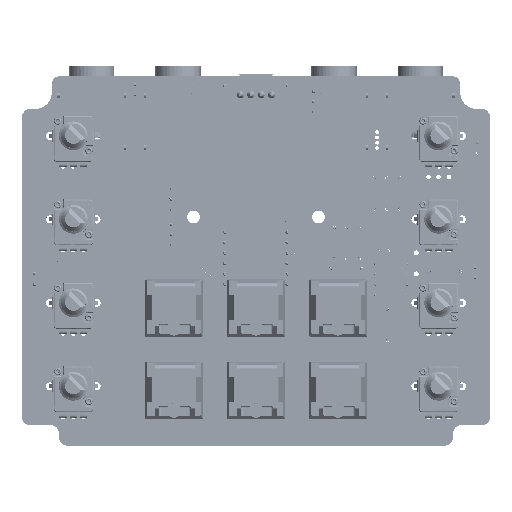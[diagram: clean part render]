
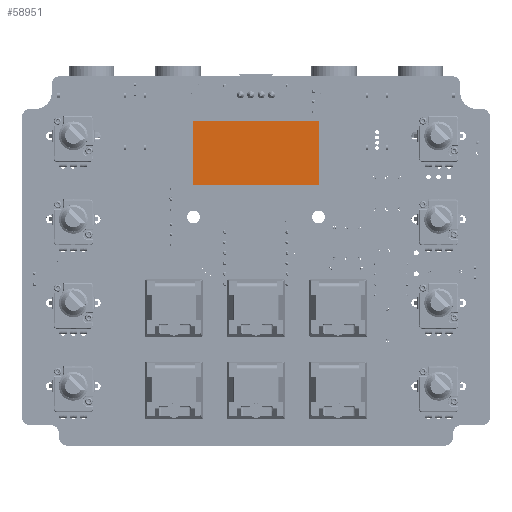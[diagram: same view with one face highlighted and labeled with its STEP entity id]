
A CAD part, top view. The second image highlights one B-rep face of the part: STEP entity #58951.
In plain terms, the highlighted planar face has unit normal (0, 0, 1) as drawn and (0, 1, 0) by its records, which use the part's own axes.
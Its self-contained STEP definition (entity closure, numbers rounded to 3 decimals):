
#58651 = PLANE('',#58652);
#58652 = AXIS2_PLACEMENT_3D('',#58653,#58654,#58655);
#58653 = CARTESIAN_POINT('',(-15.25,2.89,-8.6));
#58654 = DIRECTION('',(-1.,0.,0.));
#58655 = DIRECTION('',(0.,0.,1.));
#58679 = PLANE('',#58680);
#58680 = AXIS2_PLACEMENT_3D('',#58681,#58682,#58683);
#58681 = CARTESIAN_POINT('',(-15.25,2.89,-8.6));
#58682 = DIRECTION('',(0.,0.,-1.));
#58683 = DIRECTION('',(-1.,0.,-0.));
#58707 = PLANE('',#58708);
#58708 = AXIS2_PLACEMENT_3D('',#58709,#58710,#58711);
#58709 = CARTESIAN_POINT('',(15.25,2.89,-8.6));
#58710 = DIRECTION('',(1.,0.,0.));
#58711 = DIRECTION('',(0.,0.,-1.));
#58733 = PLANE('',#58734);
#58734 = AXIS2_PLACEMENT_3D('',#58735,#58736,#58737);
#58735 = CARTESIAN_POINT('',(-15.25,2.89,6.9));
#58736 = DIRECTION('',(-0.,0.,1.));
#58737 = DIRECTION('',(1.,0.,0.));
#58755 = VERTEX_POINT('',#58756);
#58756 = CARTESIAN_POINT('',(-15.25,2.89,-8.6));
#58777 = EDGE_CURVE('',#58755,#58778,#58780,.T.);
#58778 = VERTEX_POINT('',#58779);
#58779 = CARTESIAN_POINT('',(-15.25,2.89,6.9));
#58780 = SURFACE_CURVE('',#58781,(#58785,#58792),.PCURVE_S1.);
#58781 = LINE('',#58782,#58783);
#58782 = CARTESIAN_POINT('',(-15.25,2.89,-8.6));
#58783 = VECTOR('',#58784,1.);
#58784 = DIRECTION('',(0.,0.,1.));
#58785 = PCURVE('',#58651,#58786);
#58786 = DEFINITIONAL_REPRESENTATION('',(#58787),#58791);
#58787 = LINE('',#58788,#58789);
#58788 = CARTESIAN_POINT('',(0.,0.));
#58789 = VECTOR('',#58790,1.);
#58790 = DIRECTION('',(1.,0.));
#58791 = ( GEOMETRIC_REPRESENTATION_CONTEXT(2) 
PARAMETRIC_REPRESENTATION_CONTEXT() REPRESENTATION_CONTEXT('2D SPACE',''
  ) );
#58792 = PCURVE('',#58793,#58798);
#58793 = PLANE('',#58794);
#58794 = AXIS2_PLACEMENT_3D('',#58795,#58796,#58797);
#58795 = CARTESIAN_POINT('',(0.,2.89,0.));
#58796 = DIRECTION('',(0.,1.,0.));
#58797 = DIRECTION('',(0.,-0.,1.));
#58798 = DEFINITIONAL_REPRESENTATION('',(#58799),#58803);
#58799 = LINE('',#58800,#58801);
#58800 = CARTESIAN_POINT('',(-8.6,-15.25));
#58801 = VECTOR('',#58802,1.);
#58802 = DIRECTION('',(1.,0.));
#58803 = ( GEOMETRIC_REPRESENTATION_CONTEXT(2) 
PARAMETRIC_REPRESENTATION_CONTEXT() REPRESENTATION_CONTEXT('2D SPACE',''
  ) );
#58831 = VERTEX_POINT('',#58832);
#58832 = CARTESIAN_POINT('',(15.25,2.89,-8.6));
#58853 = EDGE_CURVE('',#58831,#58755,#58854,.T.);
#58854 = SURFACE_CURVE('',#58855,(#58859,#58866),.PCURVE_S1.);
#58855 = LINE('',#58856,#58857);
#58856 = CARTESIAN_POINT('',(-15.25,2.89,-8.6));
#58857 = VECTOR('',#58858,1.);
#58858 = DIRECTION('',(-1.,-0.,-0.));
#58859 = PCURVE('',#58679,#58860);
#58860 = DEFINITIONAL_REPRESENTATION('',(#58861),#58865);
#58861 = LINE('',#58862,#58863);
#58862 = CARTESIAN_POINT('',(0.,0.));
#58863 = VECTOR('',#58864,1.);
#58864 = DIRECTION('',(1.,0.));
#58865 = ( GEOMETRIC_REPRESENTATION_CONTEXT(2) 
PARAMETRIC_REPRESENTATION_CONTEXT() REPRESENTATION_CONTEXT('2D SPACE',''
  ) );
#58866 = PCURVE('',#58793,#58867);
#58867 = DEFINITIONAL_REPRESENTATION('',(#58868),#58872);
#58868 = LINE('',#58869,#58870);
#58869 = CARTESIAN_POINT('',(-8.6,-15.25));
#58870 = VECTOR('',#58871,1.);
#58871 = DIRECTION('',(0.,-1.));
#58872 = ( GEOMETRIC_REPRESENTATION_CONTEXT(2) 
PARAMETRIC_REPRESENTATION_CONTEXT() REPRESENTATION_CONTEXT('2D SPACE',''
  ) );
#58880 = VERTEX_POINT('',#58881);
#58881 = CARTESIAN_POINT('',(15.25,2.89,6.9));
#58902 = EDGE_CURVE('',#58880,#58831,#58903,.T.);
#58903 = SURFACE_CURVE('',#58904,(#58908,#58915),.PCURVE_S1.);
#58904 = LINE('',#58905,#58906);
#58905 = CARTESIAN_POINT('',(15.25,2.89,-8.6));
#58906 = VECTOR('',#58907,1.);
#58907 = DIRECTION('',(0.,-0.,-1.));
#58908 = PCURVE('',#58707,#58909);
#58909 = DEFINITIONAL_REPRESENTATION('',(#58910),#58914);
#58910 = LINE('',#58911,#58912);
#58911 = CARTESIAN_POINT('',(0.,0.));
#58912 = VECTOR('',#58913,1.);
#58913 = DIRECTION('',(1.,-0.));
#58914 = ( GEOMETRIC_REPRESENTATION_CONTEXT(2) 
PARAMETRIC_REPRESENTATION_CONTEXT() REPRESENTATION_CONTEXT('2D SPACE',''
  ) );
#58915 = PCURVE('',#58793,#58916);
#58916 = DEFINITIONAL_REPRESENTATION('',(#58917),#58921);
#58917 = LINE('',#58918,#58919);
#58918 = CARTESIAN_POINT('',(-8.6,15.25));
#58919 = VECTOR('',#58920,1.);
#58920 = DIRECTION('',(-1.,0.));
#58921 = ( GEOMETRIC_REPRESENTATION_CONTEXT(2) 
PARAMETRIC_REPRESENTATION_CONTEXT() REPRESENTATION_CONTEXT('2D SPACE',''
  ) );
#58930 = EDGE_CURVE('',#58778,#58880,#58931,.T.);
#58931 = SURFACE_CURVE('',#58932,(#58936,#58943),.PCURVE_S1.);
#58932 = LINE('',#58933,#58934);
#58933 = CARTESIAN_POINT('',(-15.25,2.89,6.9));
#58934 = VECTOR('',#58935,1.);
#58935 = DIRECTION('',(1.,0.,0.));
#58936 = PCURVE('',#58733,#58937);
#58937 = DEFINITIONAL_REPRESENTATION('',(#58938),#58942);
#58938 = LINE('',#58939,#58940);
#58939 = CARTESIAN_POINT('',(0.,0.));
#58940 = VECTOR('',#58941,1.);
#58941 = DIRECTION('',(1.,0.));
#58942 = ( GEOMETRIC_REPRESENTATION_CONTEXT(2) 
PARAMETRIC_REPRESENTATION_CONTEXT() REPRESENTATION_CONTEXT('2D SPACE',''
  ) );
#58943 = PCURVE('',#58793,#58944);
#58944 = DEFINITIONAL_REPRESENTATION('',(#58945),#58949);
#58945 = LINE('',#58946,#58947);
#58946 = CARTESIAN_POINT('',(6.9,-15.25));
#58947 = VECTOR('',#58948,1.);
#58948 = DIRECTION('',(0.,1.));
#58949 = ( GEOMETRIC_REPRESENTATION_CONTEXT(2) 
PARAMETRIC_REPRESENTATION_CONTEXT() REPRESENTATION_CONTEXT('2D SPACE',''
  ) );
#58951 = ADVANCED_FACE('',(#58952),#58793,.T.);
#58952 = FACE_BOUND('',#58953,.T.);
#58953 = EDGE_LOOP('',(#58954,#58955,#58956,#58957));
#58954 = ORIENTED_EDGE('',*,*,#58777,.T.);
#58955 = ORIENTED_EDGE('',*,*,#58930,.T.);
#58956 = ORIENTED_EDGE('',*,*,#58902,.T.);
#58957 = ORIENTED_EDGE('',*,*,#58853,.T.);
